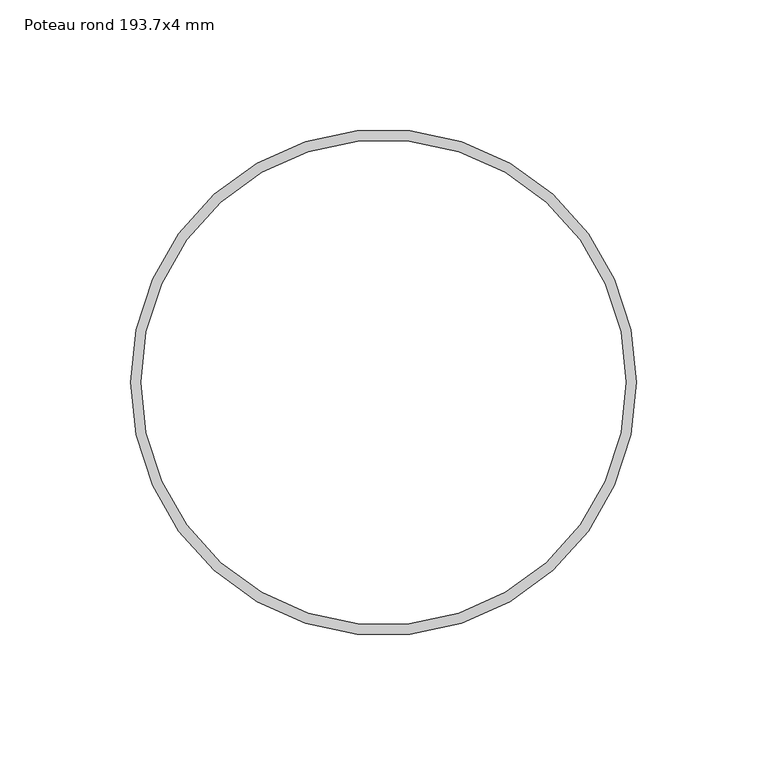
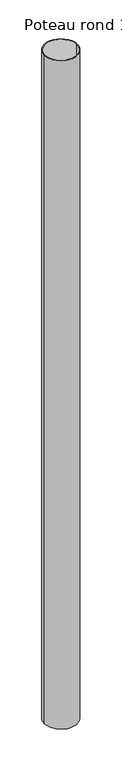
"""IFC4 building model written with IfcOpenShell, lengths in millimetres: column geometry, Poteau RO (EN 10219-2) : Poteau rond 193.7x4 mm."""

from ifc_helpers import new_model, si_unit, point, frame, origin, origin_2d, place, context, project, spatial, circle_curve, trimmed, segment, composite_curve, outline, extrude, source, transform, mapped, element, save


def poteau_rond_193_7x4_mm_0e9dcb76(model_context):
    return source(origin(), model_context, "Body", "SweptSolid", [
        extrude(outline(composite_curve([segment(trimmed(circle_curve(origin_2d(), 96.85), [point((-96.85, 0.0))], [point((96.85, 0.0))], False, "CARTESIAN"), True, "CONTINUOUS"), segment(trimmed(circle_curve(origin_2d(), 96.85), [point((96.85, 0.0))], [point((-96.85, 0.0))], False, "CARTESIAN"), True, "CONTINUOUS")], self_intersect=False), holes=[composite_curve([segment(trimmed(circle_curve(origin_2d(), 92.85), [point((-92.85, 0.0))], [point((92.85, 0.0))], True, "CARTESIAN"), True, "CONTINUOUS"), segment(trimmed(circle_curve(origin_2d(), 92.85), [point((92.85, 0.0))], [point((-92.85, 0.0))], True, "CARTESIAN"), True, "CONTINUOUS")], self_intersect=False)]), frame((0.0, 0.0, 869500.0), z_axis=(0.0, 0.0, 1.0), x_axis=(1.0, 0.0, 0.0)), (0.0, 0.0, 1.0), 4145.5277449),
    ])


if __name__ == "__main__":
    model = new_model("IFC4")
    model_context = context("Model", 3, world=origin())
    ifc_project = project(units=[si_unit("LENGTHUNIT", "METRE", prefix="MILLI")], contexts=[model_context])
    site = spatial("IfcSite", under=ifc_project)
    building = spatial("IfcBuilding", under=site)
    placement = place(None, origin())
    poteau_rond_193_7x4_mm_shape = poteau_rond_193_7x4_mm_0e9dcb76(model_context)
    element("IfcColumn", 1, ObjectType="Poteau RO (EN 10219-2) : Poteau rond 193.7x4 mm", at=placement, inside=building, context=model_context, shape_type="MappedRepresentation", body=[
        mapped(poteau_rond_193_7x4_mm_shape, transform((0.0, 0.0, 0.0), x_axis=(1.0, 0.0, 0.0), y_axis=(0.0, 1.0, 0.0), z_axis=(0.0, 0.0, 1.0))),
    ])
    save(model, "model.ifc")
